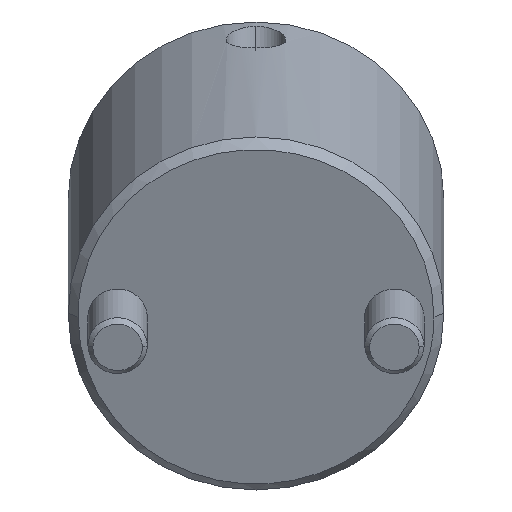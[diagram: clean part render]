
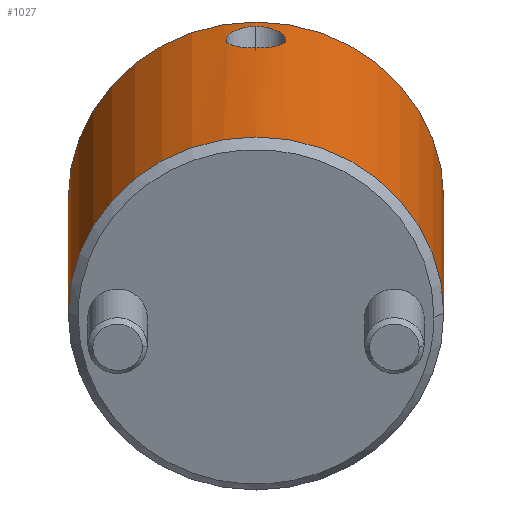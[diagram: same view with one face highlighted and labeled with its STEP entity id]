
A CAD part, front view. The second image highlights one B-rep face of the part: STEP entity #1027.
In plain terms, the highlighted cylindrical face has radius 19 mm (diameter 38 mm), a partial arc.
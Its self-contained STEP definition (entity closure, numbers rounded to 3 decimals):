
#760=CARTESIAN_POINT('Vertex',(0.,19.,1.)) ;
#763=CARTESIAN_POINT('Axis2P3D Location',(0.,0.,1.)) ;
#767=CARTESIAN_POINT('Vertex',(0.,-19.,1.)) ;
#919=CARTESIAN_POINT('Axis2P3D Location',(0.,0.,-1.8)) ;
#924=CARTESIAN_POINT('Line Origine',(0.,19.,-1.8)) ;
#928=CARTESIAN_POINT('Vertex',(0.,19.,35.)) ;
#931=CARTESIAN_POINT('Axis2P3D Location',(0.,0.,35.)) ;
#935=CARTESIAN_POINT('Vertex',(0.,-19.,35.)) ;
#938=CARTESIAN_POINT('Line Origine',(0.,-19.,-1.8)) ;
#950=CARTESIAN_POINT('Control Point',(19.,0.,33.73)) ;
#951=CARTESIAN_POINT('Control Point',(19.,0.079,33.73)) ;
#952=CARTESIAN_POINT('Control Point',(19.,0.158,33.727)) ;
#953=CARTESIAN_POINT('Control Point',(18.999,0.237,33.721)) ;
#954=CARTESIAN_POINT('Control Point',(18.995,0.474,33.695)) ;
#955=CARTESIAN_POINT('Control Point',(18.988,0.71,33.641)) ;
#956=CARTESIAN_POINT('Control Point',(18.981,0.869,33.592)) ;
#957=CARTESIAN_POINT('Control Point',(18.965,1.177,33.474)) ;
#958=CARTESIAN_POINT('Control Point',(18.944,1.464,33.312)) ;
#959=CARTESIAN_POINT('Control Point',(18.933,1.604,33.218)) ;
#960=CARTESIAN_POINT('Control Point',(18.908,1.875,33.011)) ;
#961=CARTESIAN_POINT('Control Point',(18.882,2.118,32.766)) ;
#962=CARTESIAN_POINT('Control Point',(18.869,2.233,32.633)) ;
#963=CARTESIAN_POINT('Control Point',(18.836,2.5,32.278)) ;
#964=CARTESIAN_POINT('Control Point',(18.806,2.71,31.875)) ;
#965=CARTESIAN_POINT('Control Point',(18.791,2.811,31.624)) ;
#966=CARTESIAN_POINT('Control Point',(18.771,2.939,31.185)) ;
#967=CARTESIAN_POINT('Control Point',(18.762,2.995,30.734)) ;
#968=CARTESIAN_POINT('Control Point',(18.761,3.006,30.555)) ;
#969=CARTESIAN_POINT('Control Point',(18.761,3.002,30.198)) ;
#970=CARTESIAN_POINT('Control Point',(18.769,2.952,29.847)) ;
#971=CARTESIAN_POINT('Control Point',(18.775,2.916,29.674)) ;
#972=CARTESIAN_POINT('Control Point',(18.79,2.822,29.339)) ;
#973=CARTESIAN_POINT('Control Point',(18.81,2.683,29.023)) ;
#974=CARTESIAN_POINT('Control Point',(18.821,2.603,28.87)) ;
#975=CARTESIAN_POINT('Control Point',(18.846,2.423,28.578)) ;
#976=CARTESIAN_POINT('Control Point',(18.872,2.207,28.317)) ;
#977=CARTESIAN_POINT('Control Point',(18.885,2.09,28.195)) ;
#978=CARTESIAN_POINT('Control Point',(18.912,1.841,27.969)) ;
#979=CARTESIAN_POINT('Control Point',(18.936,1.563,27.78)) ;
#980=CARTESIAN_POINT('Control Point',(18.948,1.418,27.696)) ;
#981=CARTESIAN_POINT('Control Point',(18.972,1.063,27.523)) ;
#982=CARTESIAN_POINT('Control Point',(18.99,0.68,27.41)) ;
#983=CARTESIAN_POINT('Control Point',(18.997,0.455,27.366)) ;
#984=CARTESIAN_POINT('Control Point',(19.,0.228,27.344)) ;
#985=CARTESIAN_POINT('Control Point',(19.,0.,27.344)) ;
#986=CARTESIAN_POINT('Vertex',(19.,0.,33.73)) ;
#988=CARTESIAN_POINT('Vertex',(19.,0.,27.344)) ;
#992=CARTESIAN_POINT('Control Point',(19.,0.,27.344)) ;
#993=CARTESIAN_POINT('Control Point',(19.,-0.084,27.344)) ;
#994=CARTESIAN_POINT('Control Point',(19.,-0.167,27.347)) ;
#995=CARTESIAN_POINT('Control Point',(18.999,-0.25,27.353)) ;
#996=CARTESIAN_POINT('Control Point',(18.995,-0.499,27.379)) ;
#997=CARTESIAN_POINT('Control Point',(18.986,-0.745,27.432)) ;
#998=CARTESIAN_POINT('Control Point',(18.979,-0.909,27.479)) ;
#999=CARTESIAN_POINT('Control Point',(18.953,-1.384,27.653)) ;
#1000=CARTESIAN_POINT('Control Point',(18.917,-1.81,27.924)) ;
#1001=CARTESIAN_POINT('Control Point',(18.889,-2.071,28.145)) ;
#1002=CARTESIAN_POINT('Control Point',(18.841,-2.465,28.594)) ;
#1003=CARTESIAN_POINT('Control Point',(18.801,-2.743,29.131)) ;
#1004=CARTESIAN_POINT('Control Point',(18.787,-2.837,29.372)) ;
#1005=CARTESIAN_POINT('Control Point',(18.769,-2.954,29.795)) ;
#1006=CARTESIAN_POINT('Control Point',(18.762,-3.,30.236)) ;
#1007=CARTESIAN_POINT('Control Point',(18.761,-3.007,30.413)) ;
#1008=CARTESIAN_POINT('Control Point',(18.762,-2.997,30.773)) ;
#1009=CARTESIAN_POINT('Control Point',(18.771,-2.939,31.131)) ;
#1010=CARTESIAN_POINT('Control Point',(18.778,-2.898,31.31)) ;
#1011=CARTESIAN_POINT('Control Point',(18.802,-2.743,31.832)) ;
#1012=CARTESIAN_POINT('Control Point',(18.838,-2.488,32.314)) ;
#1013=CARTESIAN_POINT('Control Point',(18.865,-2.279,32.609)) ;
#1014=CARTESIAN_POINT('Control Point',(18.906,-1.921,32.992)) ;
#1015=CARTESIAN_POINT('Control Point',(18.941,-1.503,33.286)) ;
#1016=CARTESIAN_POINT('Control Point',(18.952,-1.362,33.372)) ;
#1017=CARTESIAN_POINT('Control Point',(18.975,-1.019,33.548)) ;
#1018=CARTESIAN_POINT('Control Point',(18.991,-0.648,33.663)) ;
#1019=CARTESIAN_POINT('Control Point',(18.997,-0.432,33.708)) ;
#1020=CARTESIAN_POINT('Control Point',(19.,-0.217,33.73)) ;
#1021=CARTESIAN_POINT('Control Point',(19.,0.,33.73)) ;
#764=DIRECTION('Axis2P3D Direction',(0.,0.,1.)) ;
#920=DIRECTION('Axis2P3D Direction',(0.,-0.,1.)) ;
#921=DIRECTION('Axis2P3D XDirection',(0.,-1.,0.)) ;
#925=DIRECTION('Vector Direction',(0.,0.,1.)) ;
#932=DIRECTION('Axis2P3D Direction',(0.,-0.,1.)) ;
#939=DIRECTION('Vector Direction',(0.,0.,1.)) ;
#765=AXIS2_PLACEMENT_3D('Circle Axis2P3D',#763,#764,$) ;
#922=AXIS2_PLACEMENT_3D('Cylinder Axis2P3D',#919,#920,#921) ;
#933=AXIS2_PLACEMENT_3D('Circle Axis2P3D',#931,#932,$) ;
#944=ORIENTED_EDGE('',*,*,#930,.F.) ;
#945=ORIENTED_EDGE('',*,*,#937,.T.) ;
#946=ORIENTED_EDGE('',*,*,#942,.T.) ;
#947=ORIENTED_EDGE('',*,*,#769,.F.) ;
#1024=ORIENTED_EDGE('',*,*,#990,.T.) ;
#1025=ORIENTED_EDGE('',*,*,#1022,.T.) ;
#1026=FACE_BOUND('',#1023,.T.) ;
#926=VECTOR('Line Direction',#925,1.) ;
#940=VECTOR('Line Direction',#939,1.) ;
#1027=ADVANCED_FACE('MANIFOLD_SOLID_BREP #1118',(#948,#1026),#923,.T.) ;
#949=B_SPLINE_CURVE_WITH_KNOTS('',5,(#950,#951,#952,#953,#954,#955,#956,#957,#958,#959,#960,#961,#962,#963,#964,#965,#966,#967,#968,#969,#970,#971,#972,#973,#974,#975,#976,#977,#978,#979,#980,#981,#982,#983,#984,#985),.UNSPECIFIED.,.F.,.U.,(6,3,3,3,3,3,3,3,3,3,3,6),(0.,0.58,1.759,2.973,4.216,6.084,7.319,8.543,9.755,10.958,12.159,13.791),.UNSPECIFIED.) ;
#991=B_SPLINE_CURVE_WITH_KNOTS('',5,(#992,#993,#994,#995,#996,#997,#998,#999,#1000,#1001,#1002,#1003,#1004,#1005,#1006,#1007,#1008,#1009,#1010,#1011,#1012,#1013,#1014,#1015,#1016,#1017,#1018,#1019,#1020,#1021),.UNSPECIFIED.,.F.,.U.,(6,3,3,3,3,3,3,3,3,6),(0.,0.601,1.804,4.221,6.049,7.276,8.518,10.997,12.197,13.788),.UNSPECIFIED.) ;
#766=CIRCLE('generated circle',#765,19.) ;
#934=CIRCLE('generated circle',#933,19.) ;
#923=CYLINDRICAL_SURFACE('generated cylinder',#922,19.) ;
#769=EDGE_CURVE('',#761,#768,#766,.F.) ;
#930=EDGE_CURVE('',#929,#761,#927,.F.) ;
#937=EDGE_CURVE('',#929,#936,#934,.F.) ;
#942=EDGE_CURVE('',#936,#768,#941,.F.) ;
#990=EDGE_CURVE('',#987,#989,#949,.T.) ;
#1022=EDGE_CURVE('',#989,#987,#991,.T.) ;
#943=EDGE_LOOP('',(#944,#945,#946,#947)) ;
#1023=EDGE_LOOP('',(#1024,#1025)) ;
#948=FACE_OUTER_BOUND('',#943,.T.) ;
#927=LINE('Line',#924,#926) ;
#941=LINE('Line',#938,#940) ;
#761=VERTEX_POINT('',#760) ;
#768=VERTEX_POINT('',#767) ;
#929=VERTEX_POINT('',#928) ;
#936=VERTEX_POINT('',#935) ;
#987=VERTEX_POINT('',#986) ;
#989=VERTEX_POINT('',#988) ;
